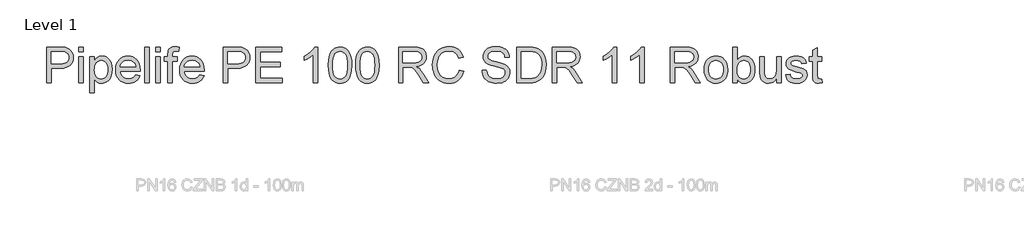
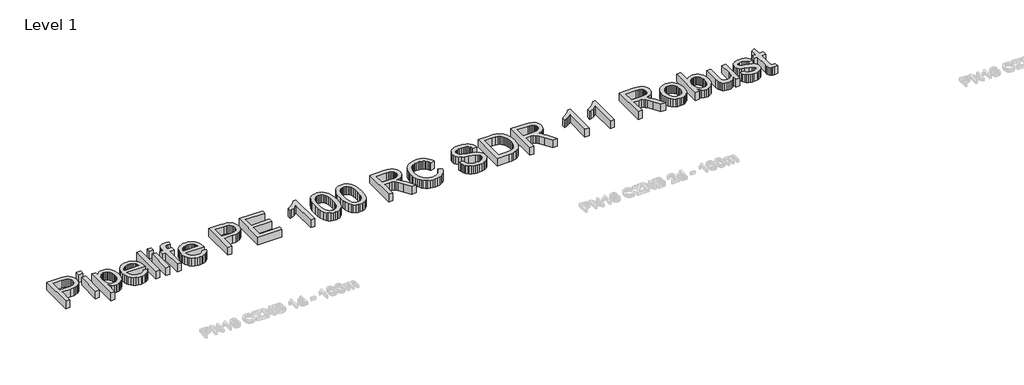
# One storey, part 11 of 13: 1 proxy.
"""IFC4 building model written with IfcOpenShell, lengths in millimetres."""

from ifc_helpers import new_model, si_unit, origin, origin_with_axes, place, context, project, spatial, polyline, outline, extrude, element, save

model = new_model("IFC4")

# Units and contexts
model_context = context("Model", 3, world=origin())
ifc_project = project(units=[si_unit("LENGTHUNIT", "METRE", prefix="MILLI")], contexts=[model_context])

# Site, building, storey
site = spatial("IfcSite", under=ifc_project)
building = spatial("IfcBuilding", under=site)
storey = spatial("IfcBuildingStorey", under=building, Name="Level 1", Elevation=0.0)

# Proxy
placement = place(None, origin())
element("IfcBuildingElementProxy", 1, Name="600mm Arial", ObjectType="600mm Arial", at=placement, inside=storey, context=model_context, shape_type="SweptSolid", body=[
    extrude(outline(polyline([(-16966.7426717, 3990.4626098), (-16966.7426717, 4593.2004707), (-16743.3647242, 4593.2004707), (-16691.3462101, 4591.7657309), (-16653.3072118, 4587.4615116), (-16613.152892, 4576.7377514), (-16580.0986947, 4559.2817508), (-16553.4824324, 4534.3025633), (-16532.6419174, 4501.0092427), (-16519.1774363, 4461.7378398), (-16514.689276, 4418.824405), (-16517.7197039, 4381.8246734), (-16526.8109877, 4347.7863917), (-16541.9631274, 4316.7095602), (-16563.176123, 4288.5941787), (-16592.2985814, 4265.2888543), (-16631.1791098, 4248.642194), (-16679.8177081, 4238.6541979), (-16738.2143763, 4235.3248658), (-16891.4004391, 4235.3248658), (-16891.4004391, 3990.4626098), (-16966.7426717, 3990.4626098)]), holes=[polyline([(-16891.4004391, 4310.6670984), (-16733.7997923, 4310.6670984), (-16697.5634158, 4312.3961438), (-16666.992422, 4317.5832799), (-16642.0868109, 4326.2285068), (-16622.8465826, 4338.3318245), (-16608.4899877, 4353.5713361), (-16598.2352771, 4371.625145), (-16592.0824507, 4392.4932512), (-16590.0315086, 4416.1756547), (-16594.8691569, 4450.0207982), (-16609.3821016, 4478.568441), (-16631.767721, 4500.0527496), (-16660.2233933, 4512.7078902), (-16689.2860709, 4516.5706511), (-16735.5656259, 4517.8582381), (-16891.4004391, 4517.8582381), (-16891.4004391, 4310.6670984)])]), origin_with_axes(), (0.0, 0.0, 1.0), 150.0),
    extrude(outline(polyline([(-16420.5114852, 3990.4626098), (-16420.5114852, 4433.0982264), (-16345.1692526, 4433.0982264), (-16345.1692526, 3990.4626098), (-16420.5114852, 3990.4626098)])), origin_with_axes(), (0.0, 0.0, 1.0), 150.0),
    extrude(outline(polyline([(-16420.5114852, 4517.8582381), (-16420.5114852, 4593.2004707), (-16345.1692526, 4593.2004707), (-16345.1692526, 4517.8582381), (-16420.5114852, 4517.8582381)])), origin_with_axes(), (0.0, 0.0, 1.0), 150.0),
    extrude(outline(polyline([(-16232.1559037, 3820.9425865), (-16232.1559037, 4433.0982264), (-16156.8136711, 4433.0982264), (-16156.8136711, 4359.2275218), (-16132.2391538, 4395.6662334), (-16104.7215806, 4421.6938846), (-16072.6422706, 4437.3104753), (-16034.3825431, 4442.5160055), (-16008.1065716, 4440.6949896), (-15983.4308868, 4435.231942), (-15960.3554886, 4426.1268626), (-15938.8803772, 4413.3797515), (-15919.4746019, 4397.3217024), (-15902.6072124, 4378.2838091), (-15888.2782087, 4356.2660717), (-15876.4875908, 4331.2684902), (-15860.7054532, 4275.7550971), (-15855.4447407, 4215.1649325), (-15861.3860349, 4150.730401), (-15868.8126526, 4121.0653166), (-15879.2099175, 4093.1016865), (-15892.4352753, 4067.570676), (-15908.3461716, 4045.2034507), (-15926.9426064, 4026.0000106), (-15948.2245798, 4009.9603556), (-15971.1482267, 3997.3098135), (-15994.6696817, 3988.273712), (-16018.788945, 3982.8520511), (-16043.5060166, 3981.0448308), (-16078.1421064, 3985.882479), (-16109.0625881, 4000.3954237), (-16135.5316977, 4022.3027965), (-16156.8136711, 4049.3237291), (-16156.8136711, 3820.9425865), (-16232.1559037, 3820.9425865)]), holes=[polyline([(-16156.8136711, 4208.248751), (-16154.7765246, 4171.9387981), (-16148.6650849, 4140.7056167), (-16138.4793522, 4114.5492068), (-16124.2193263, 4093.4695685), (-16107.0530327, 4077.2459725), (-16088.1484967, 4065.6576896), (-16067.5057182, 4058.7047199), (-16045.1246974, 4056.3870634), (-16022.4217797, 4058.7874934), (-16001.4019222, 4065.9887834), (-15982.0651249, 4077.9909335), (-15964.4113876, 4094.7939437), (-15949.7007063, 4116.6369371), (-15939.1930769, 4143.7590372), (-15932.8884992, 4176.1602439), (-15930.7869733, 4213.8405573), (-15932.8379154, 4249.8378105), (-15938.9907418, 4281.0158096), (-15949.2454524, 4307.3745546), (-15963.6020472, 4328.9140454), (-15980.8097276, 4345.6526762), (-15999.6176946, 4357.608841), (-16020.0259482, 4364.7825399), (-16042.0344886, 4367.1737729), (-16063.9740511, 4364.6307886), (-16084.6168295, 4357.0018357), (-16103.962824, 4344.2869143), (-16122.0120344, 4326.4860242), (-16137.2377504, 4303.8382889), (-16148.1132619, 4276.5828316), (-16154.6385688, 4244.7196523), (-16156.8136711, 4208.248751)])]), origin_with_axes(), (0.0, 0.0, 1.0), 150.0),
    extrude(outline(polyline([(-15460.7809362, 4122.3115169), (-15386.9102316, 4112.8937378), (-15398.2363985, 4083.3068284), (-15413.5264939, 4057.233192), (-15432.7805179, 4034.6728286), (-15455.9984703, 4015.6257383), (-15482.9412279, 4000.4965913), (-15513.3696674, 3989.6900576), (-15547.2837889, 3983.2061375), (-15584.6835922, 3981.0448308), (-15631.4321967, 3984.7742345), (-15673.0856356, 3995.9624457), (-15709.6439089, 4014.6094643), (-15741.1070165, 4040.7152904), (-15766.4081008, 4073.553357), (-15784.4803038, 4112.3970971), (-15795.3236256, 4157.2465109), (-15798.9380662, 4208.1015982), (-15795.2868374, 4260.6811323), (-15784.333151, 4307.0250667), (-15766.077007, 4347.1334012), (-15740.5184054, 4381.0061359), (-15709.1380712, 4407.9167039), (-15673.4167294, 4427.1385381), (-15633.3543802, 4438.6716387), (-15588.9510233, 4442.5160055), (-15545.9778078, 4438.6808357), (-15507.1156735, 4427.1753263), (-15472.3646205, 4407.9994773), (-15441.7246489, 4381.1532887), (-15416.7132717, 4347.3541304), (-15398.8480023, 4307.3193723), (-15388.1288407, 4261.0490143), (-15384.5557868, 4208.5430566), (-15384.9972452, 4188.2359704), (-15723.5958336, 4188.2359704), (-15719.2318334, 4158.1708144), (-15710.5544168, 4131.8396606), (-15697.5635839, 4109.242509), (-15680.2593345, 4090.3793597), (-15659.598162, 4075.5077301), (-15636.5365594, 4064.8851375), (-15611.0745268, 4058.5115819), (-15583.2120642, 4056.3870634), (-15543.1129267, 4060.3234007), (-15509.3413596, 4072.1324128), (-15481.8973627, 4092.5498635), (-15460.7809362, 4122.3115169)]), holes=[polyline([(-15723.5958336, 4263.5782031), (-15459.8980194, 4263.5782031), (-15470.0883507, 4303.3830349), (-15478.8531392, 4319.0364138), (-15490.064343, 4331.8571014), (-15510.6105525, 4347.3081452), (-15533.9894533, 4358.344605), (-15560.2010454, 4364.9664809), (-15589.2453289, 4367.1737729), (-15615.7374311, 4365.4125378), (-15640.0314384, 4360.1288327), (-15662.1273507, 4351.3226574), (-15682.0251681, 4338.9940121), (-15698.7224122, 4323.7131137), (-15711.2166044, 4306.0501794), (-15719.5077449, 4286.0052092), (-15723.5958336, 4263.5782031)])]), origin_with_axes(), (0.0, 0.0, 1.0), 150.0),
    extrude(outline(polyline([(-15309.2135542, 3990.4626098), (-15309.2135542, 4593.2004707), (-15233.8713216, 4593.2004707), (-15233.8713216, 3990.4626098), (-15309.2135542, 3990.4626098)])), origin_with_axes(), (0.0, 0.0, 1.0), 150.0),
    extrude(outline(polyline([(-15120.8579727, 4517.8582381), (-15120.8579727, 4593.2004707), (-15045.5157401, 4593.2004707), (-15045.5157401, 4517.8582381), (-15120.8579727, 4517.8582381)])), origin_with_axes(), (0.0, 0.0, 1.0), 150.0),
    extrude(outline(polyline([(-15120.8579727, 3990.4626098), (-15120.8579727, 4433.0982264), (-15045.5157401, 4433.0982264), (-15045.5157401, 3990.4626098), (-15120.8579727, 3990.4626098)])), origin_with_axes(), (0.0, 0.0, 1.0), 150.0),
    extrude(outline(polyline([(-14913.666833, 3990.4626098), (-14913.666833, 4357.7559938), (-14979.5912865, 4357.7559938), (-14979.5912865, 4433.0982264), (-14913.666833, 4433.0982264), (-14913.666833, 4477.6855242), (-14911.6802702, 4514.5840884), (-14905.7205819, 4540.519769), (-14890.5638437, 4565.5725329), (-14867.1665488, 4585.4013724), (-14834.4250512, 4598.3140305), (-14791.235705, 4602.6182498), (-14758.5309956, 4600.5581106), (-14722.5153483, 4594.3776931), (-14733.5518082, 4523.74435), (-14776.9618836, 4527.2760172), (-14805.6014969, 4524.1490202), (-14824.418661, 4514.7680294), (-14834.8481155, 4496.8521762), (-14838.3246004, 4468.1205924), (-14838.3246004, 4433.0982264), (-14753.5645887, 4433.0982264), (-14753.5645887, 4357.7559938), (-14838.3246004, 4357.7559938), (-14838.3246004, 3990.4626098), (-14913.666833, 3990.4626098)])), origin_with_axes(), (0.0, 0.0, 1.0), 150.0),
    extrude(outline(polyline([(-14377.7363424, 4122.3115169), (-14303.8656378, 4112.8937378), (-14315.1918047, 4083.3068284), (-14330.4819001, 4057.233192), (-14349.7359241, 4034.6728286), (-14372.9538765, 4015.6257383), (-14399.8966341, 4000.4965913), (-14430.3250736, 3989.6900576), (-14464.2391951, 3983.2061375), (-14501.6389984, 3981.0448308), (-14548.3876029, 3984.7742345), (-14590.0410418, 3995.9624457), (-14626.5993151, 4014.6094643), (-14658.0624227, 4040.7152904), (-14683.363507, 4073.553357), (-14701.43571, 4112.3970971), (-14712.2790318, 4157.2465109), (-14715.8934724, 4208.1015982), (-14712.2422436, 4260.6811323), (-14701.2885572, 4307.0250667), (-14683.0324132, 4347.1334012), (-14657.4738116, 4381.0061359), (-14626.0934774, 4407.9167039), (-14590.3721356, 4427.1385381), (-14550.3097864, 4438.6716387), (-14505.9064295, 4442.5160055), (-14462.933214, 4438.6808357), (-14424.0710797, 4427.1753263), (-14389.3200267, 4407.9994773), (-14358.6800551, 4381.1532887), (-14333.6686779, 4347.3541304), (-14315.8034085, 4307.3193723), (-14305.0842469, 4261.0490143), (-14301.511193, 4208.5430566), (-14301.9526514, 4188.2359704), (-14640.5512398, 4188.2359704), (-14636.1872396, 4158.1708144), (-14627.509823, 4131.8396606), (-14614.5189901, 4109.242509), (-14597.2147407, 4090.3793597), (-14576.5535682, 4075.5077301), (-14553.4919656, 4064.8851375), (-14528.029933, 4058.5115819), (-14500.1674704, 4056.3870634), (-14460.0683329, 4060.3234007), (-14426.2967658, 4072.1324128), (-14398.8527689, 4092.5498635), (-14377.7363424, 4122.3115169)]), holes=[polyline([(-14640.5512398, 4263.5782031), (-14376.8534256, 4263.5782031), (-14387.0437569, 4303.3830349), (-14395.8085454, 4319.0364138), (-14407.0197492, 4331.8571014), (-14427.5659587, 4347.3081452), (-14450.9448595, 4358.344605), (-14477.1564516, 4364.9664809), (-14506.2007351, 4367.1737729), (-14532.6928373, 4365.4125378), (-14556.9868446, 4360.1288327), (-14579.0827569, 4351.3226574), (-14598.9805743, 4338.9940121), (-14615.6778184, 4323.7131137), (-14628.1720106, 4306.0501794), (-14636.4631511, 4286.0052092), (-14640.5512398, 4263.5782031)])]), origin_with_axes(), (0.0, 0.0, 1.0), 150.0),
    extrude(outline(polyline([(-13981.3067044, 3990.4626098), (-13981.3067044, 4593.2004707), (-13757.928757, 4593.2004707), (-13705.9102428, 4591.7657309), (-13667.8712445, 4587.4615116), (-13627.7169248, 4576.7377514), (-13594.6627275, 4559.2817508), (-13568.0464651, 4534.3025633), (-13547.2059501, 4501.0092427), (-13533.7414691, 4461.7378398), (-13529.2533087, 4418.824405), (-13532.2837367, 4381.8246734), (-13541.3750205, 4347.7863917), (-13556.5271602, 4316.7095602), (-13577.7401557, 4288.5941787), (-13606.8626142, 4265.2888543), (-13645.7431425, 4248.642194), (-13694.3817408, 4238.6541979), (-13752.778409, 4235.3248658), (-13905.9644718, 4235.3248658), (-13905.9644718, 3990.4626098), (-13981.3067044, 3990.4626098)]), holes=[polyline([(-13905.9644718, 4310.6670984), (-13748.3638251, 4310.6670984), (-13712.1274486, 4312.3961438), (-13681.5564548, 4317.5832799), (-13656.6508437, 4326.2285068), (-13637.4106153, 4338.3318245), (-13623.0540205, 4353.5713361), (-13612.7993099, 4371.625145), (-13606.6464835, 4392.4932512), (-13604.5955414, 4416.1756547), (-13609.4331896, 4450.0207982), (-13623.9461343, 4478.568441), (-13646.3317537, 4500.0527496), (-13674.787426, 4512.7078902), (-13703.8501037, 4516.5706511), (-13750.1296587, 4517.8582381), (-13905.9644718, 4517.8582381), (-13905.9644718, 4310.6670984)])]), origin_with_axes(), (0.0, 0.0, 1.0), 150.0),
    extrude(outline(polyline([(-13425.6577389, 3990.4626098), (-13425.6577389, 4593.2004707), (-12992.4399014, 4593.2004707), (-12992.4399014, 4517.8582381), (-13350.3155063, 4517.8582381), (-13350.3155063, 4338.9204357), (-13011.2754595, 4338.9204357), (-13011.2754595, 4263.5782031), (-13350.3155063, 4263.5782031), (-13350.3155063, 4065.8048424), (-12983.0221223, 4065.8048424), (-12983.0221223, 3990.4626098), (-13425.6577389, 3990.4626098)])), origin_with_axes(), (0.0, 0.0, 1.0), 150.0),
    extrude(outline(polyline([(-12380.2842614, 3990.4626098), (-12455.626494, 3990.4626098), (-12455.626494, 4460.1743413), (-12487.0804046, 4434.7353013), (-12526.9956011, 4409.3330495), (-12568.8973603, 4387.1313711), (-12606.3109592, 4371.2940512), (-12606.3109592, 4442.5160055), (-12547.1371403, 4474.7056801), (-12495.8727843, 4513.0021958), (-12455.4609471, 4553.7267326), (-12428.8446848, 4593.2004707), (-12380.2842614, 4593.2004707), (-12380.2842614, 3990.4626098)])), origin_with_axes(), (0.0, 0.0, 1.0), 150.0),
    extrude(outline(polyline([(-12201.346459, 4286.9754979), (-12195.8098349, 4383.4525512), (-12188.8890549, 4424.3656276), (-12179.1999628, 4460.3950705), (-12166.7839455, 4491.8351855), (-12151.6823896, 4518.9802782), (-12133.8952951, 4541.8303486), (-12113.4226621, 4560.3853968), (-12090.1955126, 4574.7419916), (-12064.1448689, 4584.9967022), (-12035.2707308, 4591.1495286), (-12003.5730984, 4593.2004707), (-11957.1463906, 4588.3444284), (-11915.5757251, 4573.7763014), (-11880.8108766, 4550.0663068), (-11854.8016195, 4517.7846617), (-11835.156721, 4477.2072777), (-11819.484948, 4428.6100661), (-11809.2210403, 4366.8978614), (-11805.7997377, 4286.9754979), (-11811.2811795, 4191.0502677), (-11818.1329816, 4150.2751471), (-11827.7255047, 4114.2916894), (-11840.044953, 4082.8377788), (-11855.077531, 4055.6512994), (-11872.8232387, 4032.7322511), (-11893.2820762, 4014.0806339), (-11916.5368168, 3999.62747), (-11942.670234, 3989.3037815), (-11971.6823279, 3983.1095685), (-12003.5730984, 3981.0448308), (-12045.0701874, 3984.6316802), (-12081.8583869, 3995.3922286), (-12113.9376969, 4013.3264758), (-12141.3081173, 4038.434422), (-12167.5748918, 4083.8218632), (-12186.3368736, 4140.3745229), (-12197.5940626, 4208.0924011), (-12201.346459, 4286.9754979)]), holes=[polyline([(-12126.0042263, 4287.1226507), (-12123.7969344, 4221.62586), (-12117.1750585, 4168.609466), (-12106.1385986, 4128.0734687), (-12090.6875548, 4100.017868), (-12071.9991495, 4080.929391), (-12051.2506049, 4067.2947645), (-12028.4419212, 4059.1139887), (-12003.5730984, 4056.3870634), (-11978.7042755, 4059.1231857), (-11955.8955918, 4067.3315527), (-11935.1470472, 4081.0121644), (-11916.4586419, 4100.1650208), (-11901.0075981, 4128.2666067), (-11889.9711382, 4168.793407), (-11883.3492623, 4221.7454217), (-11881.1419704, 4287.1226507), (-11883.2756859, 4350.8857976), (-11889.6768326, 4402.968691), (-11900.3454105, 4443.3713311), (-11915.2814195, 4472.0937179), (-11933.6571252, 4492.1156955), (-11954.644793, 4506.4171081), (-11978.244423, 4514.9979556), (-12004.4560151, 4517.8582381), (-12029.1960793, 4515.3382465), (-12051.6184869, 4507.7782714), (-12071.723238, 4495.1783131), (-12089.5103324, 4477.5383714), (-12105.476411, 4446.2684019), (-12116.8807529, 4404.1091252), (-12123.723358, 4351.0605415), (-12126.0042263, 4287.1226507)])]), origin_with_axes(), (0.0, 0.0, 1.0), 150.0),
    extrude(outline(polyline([(-11739.8752842, 4286.9754979), (-11734.3386602, 4383.4525512), (-11727.4178801, 4424.3656276), (-11717.7287881, 4460.3950705), (-11705.3127708, 4491.8351855), (-11690.2112149, 4518.9802782), (-11672.4241204, 4541.8303486), (-11651.9514874, 4560.3853968), (-11628.7243379, 4574.7419916), (-11602.6736941, 4584.9967022), (-11573.799556, 4591.1495286), (-11542.1019236, 4593.2004707), (-11495.6752158, 4588.3444284), (-11454.1045504, 4573.7763014), (-11419.3397018, 4550.0663068), (-11393.3304448, 4517.7846617), (-11373.6855462, 4477.2072777), (-11358.0137732, 4428.6100661), (-11347.7498655, 4366.8978614), (-11344.328563, 4286.9754979), (-11349.8100047, 4191.0502677), (-11356.6618069, 4150.2751471), (-11366.2543299, 4114.2916894), (-11378.5737782, 4082.8377788), (-11393.6063562, 4055.6512994), (-11411.352064, 4032.7322511), (-11431.8109014, 4014.0806339), (-11455.0656421, 3999.62747), (-11481.1990593, 3989.3037815), (-11510.2111531, 3983.1095685), (-11542.1019236, 3981.0448308), (-11583.5990127, 3984.6316802), (-11620.3872122, 3995.3922286), (-11652.4665222, 4013.3264758), (-11679.8369426, 4038.434422), (-11706.1037171, 4083.8218632), (-11724.8656988, 4140.3745229), (-11736.1228879, 4208.0924011), (-11739.8752842, 4286.9754979)]), holes=[polyline([(-11664.5330516, 4287.1226507), (-11662.3257596, 4221.62586), (-11655.7038837, 4168.609466), (-11644.6674239, 4128.0734687), (-11629.2163801, 4100.017868), (-11610.5279747, 4080.929391), (-11589.7794302, 4067.2947645), (-11566.9707465, 4059.1139887), (-11542.1019236, 4056.3870634), (-11517.2331007, 4059.1231857), (-11494.424417, 4067.3315527), (-11473.6758725, 4081.0121644), (-11454.9874671, 4100.1650208), (-11439.5364233, 4128.2666067), (-11428.4999635, 4168.793407), (-11421.8780876, 4221.7454217), (-11419.6707956, 4287.1226507), (-11421.8045112, 4350.8857976), (-11428.2056579, 4402.968691), (-11438.8742358, 4443.3713311), (-11453.8102448, 4472.0937179), (-11472.1859504, 4492.1156955), (-11493.1736182, 4506.4171081), (-11516.7732482, 4514.9979556), (-11542.9848404, 4517.8582381), (-11567.7249046, 4515.3382465), (-11590.1473122, 4507.7782714), (-11610.2520632, 4495.1783131), (-11628.0391577, 4477.5383714), (-11644.0052363, 4446.2684019), (-11655.4095781, 4404.1091252), (-11662.2521832, 4351.0605415), (-11664.5330516, 4287.1226507)])]), origin_with_axes(), (0.0, 0.0, 1.0), 150.0),
    extrude(outline(polyline([(-11014.7062953, 3990.4626098), (-11014.7062953, 4593.2004707), (-10754.9816067, 4593.2004707), (-10685.1759981, 4589.1353747), (-10634.3898887, 4576.9400865), (-10614.7909754, 4567.246396), (-10597.2705954, 4554.4257084), (-10581.8287486, 4538.4780239), (-10568.4654352, 4519.4033425), (-10557.6818942, 4498.2271351), (-10549.9793649, 4475.974873), (-10545.3578473, 4452.6465559), (-10543.8173415, 4428.2421841), (-10546.3695228, 4397.2849142), (-10554.0260669, 4368.8660301), (-10566.7869736, 4342.9855317), (-10584.652243, 4319.6434191), (-10607.8518013, 4299.5846533), (-10636.6155748, 4283.5541954), (-10670.9435634, 4271.5520453), (-10710.8357673, 4263.5782031), (-10686.0037326, 4247.3546071), (-10668.0143031, 4231.3517403), (-10637.1490037, 4194.7474818), (-10606.9458919, 4153.8022157), (-10506.4405308, 3990.4626098), (-10593.9964456, 3990.4626098), (-10672.428887, 4115.3953354), (-10729.0827143, 4198.0952079), (-10750.1439585, 4222.2098727), (-10768.8875461, 4237.1642758), (-10804.7192525, 4251.5116736), (-10848.4236335, 4254.160424), (-10939.3640627, 4254.160424), (-10939.3640627, 3990.4626098), (-11014.7062953, 3990.4626098)]), holes=[polyline([(-10939.3640627, 4329.5026566), (-10770.7269561, 4329.5026566), (-10722.2952914, 4332.1698011), (-10684.7161456, 4340.1712344), (-10656.4260202, 4354.0403857), (-10635.8614167, 4374.3106836), (-10623.3350347, 4398.8300186), (-10619.1595741, 4425.4462809), (-10621.1507354, 4444.7141004), (-10627.1242193, 4462.1976922), (-10637.0800258, 4477.8970564), (-10651.0181549, 4491.8121929), (-10669.2605033, 4503.2073377), (-10692.1289678, 4511.3467268), (-10719.6235485, 4516.2303603), (-10751.7442452, 4517.8582381), (-10939.3640627, 4517.8582381), (-10939.3640627, 4329.5026566)])]), origin_with_axes(), (0.0, 0.0, 1.0), 150.0),
    extrude(outline(polyline([(-9988.168376, 4204.7170838), (-9912.8261434, 4185.2929145), (-9927.7345612, 4138.4385439), (-9947.5909919, 4097.4978763), (-9972.3954354, 4062.4709119), (-10002.1478918, 4033.3576505), (-10036.1769763, 4010.4707918), (-10073.8113045, 3994.1230357), (-10115.0508761, 3984.314382), (-10159.8956913, 3981.0448308), (-10205.839554, 3983.5188372), (-10247.2860593, 3990.9408564), (-10284.2352072, 4003.3108885), (-10316.6869977, 4020.6289334), (-10345.0874877, 4042.6374738), (-10369.8827342, 4069.0789922), (-10391.0727371, 4099.9534886), (-10408.6574965, 4135.2609631), (-10422.4668669, 4173.4747054), (-10432.3307029, 4213.0680051), (-10438.2490044, 4254.0408623), (-10440.2217716, 4296.393277), (-10437.9914871, 4341.8359005), (-10431.3006333, 4384.2802857), (-10420.1492103, 4423.7264326), (-10404.5372181, 4460.1743413), (-10384.8141446, 4493.0216049), (-10361.3294778, 4521.6658168), (-10334.0832175, 4546.1069768), (-10303.0753638, 4566.3450851), (-10269.358979, 4582.2145946), (-10233.9871252, 4593.5499586), (-10196.9598023, 4600.351177), (-10158.2770105, 4602.6182498), (-10115.1842333, 4599.6843909), (-10075.6691085, 4590.8828142), (-10039.7316361, 4576.2135196), (-10007.3718161, 4555.6765072), (-9979.1230774, 4529.814403), (-9955.5188489, 4499.1698328), (-9936.5591306, 4463.7427966), (-9922.2439224, 4423.5332946), (-9997.5861551, 4405.5806532), (-10009.4503494, 4435.2089494), (-10023.7057767, 4460.5238292), (-10040.352437, 4481.5252926), (-10059.3903302, 4498.2133396), (-10080.9298211, 4510.928261), (-10105.081274, 4520.0103478), (-10131.8446892, 4525.4595998), (-10161.2200665, 4527.2760172), (-10195.0192248, 4525.2618633), (-10225.9305095, 4519.2194015), (-10253.9539204, 4509.1486319), (-10279.0894578, 4495.0495544), (-10301.0198232, 4477.5567655), (-10319.4277185, 4457.3048617), (-10334.3131438, 4434.2938429), (-10345.6760989, 4408.5237092), (-10360.078679, 4353.3781981), (-10364.879539, 4296.5404298), (-10359.1957622, 4226.9371563), (-10352.0910412, 4195.6671867), (-10342.1444317, 4166.7516619), (-10329.1949855, 4140.7653975), (-10313.0817541, 4118.2832091), (-10293.8047376, 4099.3050966), (-10271.3639359, 4083.8310602), (-10246.8491994, 4071.8243116), (-10221.3503786, 4063.2480626), (-10194.8674735, 4058.1023132), (-10167.400484, 4056.3870634), (-10134.6451909, 4058.723114), (-10104.5110569, 4065.731266), (-10076.9980822, 4077.4115194), (-10052.1062667, 4093.7638741), (-10030.4242216, 4114.7147537), (-10012.5405582, 4140.1905819), (-9998.4552763, 4170.1913586), (-9988.168376, 4204.7170838)])), origin_with_axes(), (0.0, 0.0, 1.0), 150.0),
    extrude(outline(polyline([(-9602.0394338, 4197.6537495), (-9526.6972012, 4197.6537495), (-9518.0519743, 4155.8439608), (-9502.4169895, 4122.2379405), (-9478.0264133, 4095.5664959), (-9443.1144119, 4074.5604339), (-9400.4401005, 4060.930406), (-9352.7625939, 4056.3870634), (-9310.7872583, 4059.82676), (-9274.0358469, 4070.14585), (-9244.2557994, 4086.4798106), (-9223.1945552, 4107.9641191), (-9210.6681733, 4132.6306069), (-9206.4927126, 4158.5111052), (-9209.6197096, 4183.729416), (-9219.0007005, 4205.5264242), (-9238.0569878, 4224.1228591), (-9270.2098742, 4239.7394498), (-9379.9122851, 4268.5078218), (-9451.9251857, 4287.545715), (-9498.0024056, 4305.6639033), (-9535.507975, 4331.0109728), (-9562.0874492, 4361.7291194), (-9577.9247691, 4397.1561555), (-9583.2038757, 4436.6298936), (-9581.5713993, 4459.0660968), (-9576.6739703, 4480.7573389), (-9568.5115885, 4501.70362), (-9557.084254, 4521.9049401), (-9542.5207255, 4540.5381631), (-9524.9497617, 4556.7801532), (-9504.3713626, 4570.6309103), (-9480.7855282, 4582.0904345), (-9427.7737327, 4597.486296), (-9369.0965545, 4602.6182498), (-9305.5265457, 4597.2471727), (-9249.9027881, 4581.1339413), (-9225.5673941, 4569.1317912), (-9204.2118443, 4554.6096494), (-9185.8361386, 4537.567516), (-9170.4402771, 4518.0053909), (-9158.1438214, 4496.4934912), (-9149.0663332, 4473.6020341), (-9143.2078124, 4449.3310195), (-9140.5682591, 4423.6804474), (-9215.9104917, 4423.6804474), (-9220.950475, 4447.7215357), (-9229.7428547, 4468.6356272), (-9242.2876308, 4486.4227216), (-9258.5848031, 4501.0828191), (-9278.9378745, 4512.5423433), (-9303.6503475, 4520.7277177), (-9332.7222222, 4525.6389423), (-9366.1534985, 4527.2760172), (-9400.6516326, 4525.6573364), (-9430.1281775, 4520.8012941), (-9454.5831331, 4512.7078902), (-9474.0164995, 4501.3771247), (-9488.8237498, 4487.7562939), (-9499.4003572, 4472.7926937), (-9505.7463216, 4456.4863243), (-9507.8616431, 4438.8371856), (-9506.3625239, 4423.6528562), (-9501.8651666, 4409.8848725), (-9494.3695709, 4397.5332345), (-9483.875737, 4386.5979422), (-9467.3578354, 4376.2420641), (-9441.3485783, 4365.7758213), (-9360.8559978, 4344.512242), (-9277.7882433, 4324.3155205), (-9227.5355627, 4306.6939729), (-9184.5853398, 4279.3603406), (-9167.9800663, 4263.2930945), (-9154.6213513, 4245.6255617), (-9144.3528451, 4226.4497127), (-9137.0181978, 4205.857518), (-9131.15048, 4160.4240916), (-9132.8381387, 4136.8566513), (-9137.9011146, 4113.9789897), (-9146.3394079, 4091.7911069), (-9158.1530185, 4070.2930028), (-9173.1350127, 4050.3170104), (-9191.078457, 4032.6954629), (-9211.9833514, 4017.4283601), (-9235.8496958, 4004.515702), (-9261.9831131, 3994.2471959), (-9289.6892258, 3986.9125486), (-9349.8195379, 3981.0448308), (-9388.3597755, 3982.6267233), (-9423.6350603, 3987.3724011), (-9455.6453924, 3995.281864), (-9484.3907718, 4006.355112), (-9510.0459424, 4020.6105393), (-9532.7856482, 4038.06654), (-9552.6098893, 4058.723114), (-9569.5186655, 4082.5802614), (-9583.1394963, 4108.86543), (-9593.0999014, 4136.8060675), (-9599.3998805, 4166.402174), (-9602.0394338, 4197.6537495)])), origin_with_axes(), (0.0, 0.0, 1.0), 150.0),
    extrude(outline(polyline([(-9018.1371311, 3990.4626098), (-9018.1371311, 4593.2004707), (-8810.2102274, 4593.2004707), (-8748.0749584, 4591.029967), (-8702.641532, 4584.5184556), (-8654.5961435, 4567.7798249), (-8614.0555476, 4541.4026858), (-8591.7159134, 4519.8448009), (-8572.3745175, 4495.4910128), (-8556.0313599, 4468.3413216), (-8542.6864405, 4438.3957272), (-8532.3213653, 4405.9301411), (-8524.9177402, 4371.2204748), (-8518.99484, 4295.0689018), (-8523.0047538, 4230.376853), (-8535.034495, 4173.4471142), (-8553.3550184, 4124.9786614), (-8576.2372785, 4085.6704702), (-8602.5776293, 4054.6396239), (-8631.272425, 4031.0032057), (-8664.2162576, 4013.4736286), (-8703.3037196, 4000.7633057), (-8748.6083873, 3993.0377838), (-8800.2038371, 3990.4626098), (-9018.1371311, 3990.4626098)]), holes=[polyline([(-8942.7948985, 4065.8048424), (-8809.4744634, 4065.8048424), (-8754.3289524, 4068.5271692), (-8712.5007695, 4076.6941495), (-8680.9364943, 4089.8275367), (-8656.5827062, 4107.4490843), (-8630.4079023, 4140.0618232), (-8610.7446096, 4182.2762821), (-8598.4389569, 4234.2764021), (-8594.3370726, 4296.2461242), (-8596.346628, 4339.9872934), (-8602.3752942, 4378.3573855), (-8612.4230712, 4411.3564005), (-8626.489959, 4438.9843384), (-8643.4355234, 4461.8665985), (-8662.1193303, 4480.6285802), (-8682.5413795, 4495.2702836), (-8704.7016712, 4505.7917087), (-8748.0381702, 4514.8416058), (-8811.5346026, 4517.8582381), (-8942.7948985, 4517.8582381), (-8942.7948985, 4065.8048424)])]), origin_with_axes(), (0.0, 0.0, 1.0), 150.0),
    extrude(outline(polyline([(-8415.3992702, 3990.4626098), (-8415.3992702, 4593.2004707), (-8155.6745816, 4593.2004707), (-8085.868973, 4589.1353747), (-8035.0828636, 4576.9400865), (-8015.4839503, 4567.246396), (-7997.9635703, 4554.4257084), (-7982.5217235, 4538.4780239), (-7969.15841, 4519.4033425), (-7958.3748691, 4498.2271351), (-7950.6723398, 4475.974873), (-7946.0508222, 4452.6465559), (-7944.5103164, 4428.2421841), (-7947.0624977, 4397.2849142), (-7954.7190417, 4368.8660301), (-7967.4799484, 4342.9855317), (-7985.3452178, 4319.6434191), (-8008.5447762, 4299.5846533), (-8037.3085497, 4283.5541954), (-8071.6365383, 4271.5520453), (-8111.5287422, 4263.5782031), (-8086.6967075, 4247.3546071), (-8068.7072779, 4231.3517403), (-8037.8419785, 4194.7474818), (-8007.6388667, 4153.8022157), (-7907.1335057, 3990.4626098), (-7994.6894205, 3990.4626098), (-8073.1218619, 4115.3953354), (-8129.7756891, 4198.0952079), (-8150.8369334, 4222.2098727), (-8169.580521, 4237.1642758), (-8205.4122273, 4251.5116736), (-8249.1166084, 4254.160424), (-8340.0570376, 4254.160424), (-8340.0570376, 3990.4626098), (-8415.3992702, 3990.4626098)]), holes=[polyline([(-8340.0570376, 4329.5026566), (-8171.419931, 4329.5026566), (-8122.9882663, 4332.1698011), (-8085.4091205, 4340.1712344), (-8057.1189951, 4354.0403857), (-8036.5543916, 4374.3106836), (-8024.0280096, 4398.8300186), (-8019.852549, 4425.4462809), (-8021.8437103, 4444.7141004), (-8027.8171942, 4462.1976922), (-8037.7730007, 4477.8970564), (-8051.7111298, 4491.8121929), (-8069.9534782, 4503.2073377), (-8092.8219427, 4511.3467268), (-8120.3165233, 4516.2303603), (-8152.43722, 4517.8582381), (-8340.0570376, 4517.8582381), (-8340.0570376, 4329.5026566)])]), origin_with_axes(), (0.0, 0.0, 1.0), 150.0),
    extrude(outline(polyline([(-7322.9368973, 3990.4626098), (-7398.2791299, 3990.4626098), (-7398.2791299, 4460.1743413), (-7429.7330405, 4434.7353013), (-7469.648237, 4409.3330495), (-7511.5499962, 4387.1313711), (-7548.9635952, 4371.2940512), (-7548.9635952, 4442.5160055), (-7489.7897762, 4474.7056801), (-7438.5254202, 4513.0021958), (-7398.113583, 4553.7267326), (-7371.4973207, 4593.2004707), (-7322.9368973, 4593.2004707), (-7322.9368973, 3990.4626098)])), origin_with_axes(), (0.0, 0.0, 1.0), 150.0),
    extrude(outline(polyline([(-6861.4657226, 3990.4626098), (-6936.8079552, 3990.4626098), (-6936.8079552, 4460.1743413), (-6968.2618658, 4434.7353013), (-7008.1770622, 4409.3330495), (-7050.0788215, 4387.1313711), (-7087.4924204, 4371.2940512), (-7087.4924204, 4442.5160055), (-7028.3186015, 4474.7056801), (-6977.0542455, 4513.0021958), (-6936.6424083, 4553.7267326), (-6910.0261459, 4593.2004707), (-6861.4657226, 4593.2004707), (-6861.4657226, 3990.4626098)])), origin_with_axes(), (0.0, 0.0, 1.0), 150.0),
    extrude(outline(polyline([(-6418.830106, 3990.4626098), (-6418.830106, 4593.2004707), (-6159.1054174, 4593.2004707), (-6089.2998088, 4589.1353747), (-6038.5136994, 4576.9400865), (-6018.9147861, 4567.246396), (-6001.394406, 4554.4257084), (-5985.9525593, 4538.4780239), (-5972.5892458, 4519.4033425), (-5961.8057048, 4498.2271351), (-5954.1031756, 4475.974873), (-5949.481658, 4452.6465559), (-5947.9411521, 4428.2421841), (-5950.4933335, 4397.2849142), (-5958.1498775, 4368.8660301), (-5970.9107842, 4342.9855317), (-5988.7760536, 4319.6434191), (-6011.9756119, 4299.5846533), (-6040.7393854, 4283.5541954), (-6075.0673741, 4271.5520453), (-6114.959578, 4263.5782031), (-6090.1275433, 4247.3546071), (-6072.1381137, 4231.3517403), (-6041.2728143, 4194.7474818), (-6011.0697025, 4153.8022157), (-5910.5643414, 3990.4626098), (-5998.1202563, 3990.4626098), (-6076.5526977, 4115.3953354), (-6133.2065249, 4198.0952079), (-6154.2677691, 4222.2098727), (-6173.0113568, 4237.1642758), (-6208.8430631, 4251.5116736), (-6252.5474442, 4254.160424), (-6343.4878734, 4254.160424), (-6343.4878734, 3990.4626098), (-6418.830106, 3990.4626098)]), holes=[polyline([(-6343.4878734, 4329.5026566), (-6174.8507668, 4329.5026566), (-6126.4191021, 4332.1698011), (-6088.8399563, 4340.1712344), (-6060.5498309, 4354.0403857), (-6039.9852273, 4374.3106836), (-6027.4588454, 4398.8300186), (-6023.2833848, 4425.4462809), (-6025.2745461, 4444.7141004), (-6031.24803, 4462.1976922), (-6041.2038364, 4477.8970564), (-6055.1419655, 4491.8121929), (-6073.384314, 4503.2073377), (-6096.2527785, 4511.3467268), (-6123.7473591, 4516.2303603), (-6155.8680558, 4517.8582381), (-6343.4878734, 4517.8582381), (-6343.4878734, 4329.5026566)])]), origin_with_axes(), (0.0, 0.0, 1.0), 150.0),
    extrude(outline(polyline([(-5844.3455823, 4211.7804181), (-5840.2712892, 4269.10563), (-5828.0484099, 4318.5029849), (-5807.6769444, 4359.9724828), (-5779.1568928, 4393.5141237), (-5750.443703, 4414.952447), (-5718.7506691, 4430.2655351), (-5684.0777911, 4439.4533879), (-5646.4250689, 4442.5160055), (-5604.859002, 4438.7866018), (-5567.2752576, 4427.5983906), (-5533.6738359, 4408.951372), (-5504.0547368, 4382.8455459), (-5479.8802912, 4350.1638291), (-5462.61283, 4311.7891385), (-5452.2523533, 4267.721474), (-5448.7988611, 4217.9608356), (-5450.3255714, 4177.6317719), (-5454.9057022, 4141.8460508), (-5462.5392536, 4110.6036724), (-5473.2262256, 4083.9046366), (-5486.8332609, 4060.843034), (-5503.2270023, 4040.5129553), (-5522.4074498, 4022.9144003), (-5544.3746034, 4008.0473692), (-5568.2731375, 3996.2337586), (-5593.2477265, 3987.7954654), (-5619.2983703, 3982.7324894), (-5646.4250689, 3981.0448308), (-5688.5981411, 3984.7604389), (-5726.5313733, 3995.9072634), (-5760.2247656, 4014.4853041), (-5789.6783178, 4040.4945612), (-5813.595246, 4073.4935761), (-5830.6787662, 4113.0408906), (-5840.9288783, 4159.1365046), (-5844.3455823, 4211.7804181)]), holes=[polyline([(-5769.0033497, 4211.9275709), (-5766.8236489, 4175.3830932), (-5760.2845464, 4143.7406431), (-5749.3860423, 4117.0002206), (-5734.1281365, 4095.1618257), (-5715.5684899, 4078.1978672), (-5694.7647631, 4066.0807539), (-5671.7169561, 4058.810486), (-5646.4250689, 4056.3870634), (-5621.2619404, 4058.8242816), (-5598.3061039, 4066.1359362), (-5577.5575594, 4078.3220273), (-5559.0163068, 4095.3825549), (-5543.7584011, 4117.4370805), (-5532.859897, 4144.6051658), (-5526.3207945, 4176.8868109), (-5524.1410937, 4214.2820157), (-5526.3345901, 4249.6676651), (-5532.9150793, 4280.4823807), (-5543.8825613, 4306.7261626), (-5559.237036, 4328.3990106), (-5577.8472665, 4345.3629691), (-5598.5820154, 4357.4800823), (-5621.4412829, 4364.7503502), (-5646.4250689, 4367.1737729), (-5671.7169561, 4364.7595473), (-5694.7647631, 4357.5168705), (-5715.5684899, 4345.4457426), (-5734.1281365, 4328.5461634), (-5749.3860423, 4306.7721478), (-5760.2845464, 4280.0777105), (-5766.8236489, 4248.4628516), (-5769.0033497, 4211.9275709)])]), origin_with_axes(), (0.0, 0.0, 1.0), 150.0),
    extrude(outline(polyline([(-5288.6966168, 3990.4626098), (-5364.0388494, 3990.4626098), (-5364.0388494, 4593.2004707), (-5288.6966168, 4593.2004707), (-5288.6966168, 4369.6753705), (-5263.9197644, 4401.5431483), (-5235.9423387, 4424.3058467), (-5204.7643396, 4437.9634658), (-5170.3857671, 4442.5160055), (-5131.5742166, 4438.4141213), (-5094.8963817, 4426.1084685), (-5062.4491898, 4406.3715995), (-5036.3295681, 4379.9760663), (-5015.8569351, 4347.1793865), (-5000.350709, 4308.2390773), (-4990.583442, 4264.7738195), (-4987.3276863, 4218.402294), (-4990.6984051, 4164.8938578), (-5000.8105615, 4117.8233566), (-5017.6641554, 4077.1907902), (-5041.2591868, 4042.9961587), (-5069.5815019, 4015.8924527), (-5100.6169468, 3996.5326628), (-5134.3655213, 3984.9167888), (-5170.8272255, 3981.0448308), (-5206.3370351, 3986.0388288), (-5237.8185369, 4001.0208231), (-5265.2717307, 4025.9908135), (-5288.6966168, 4060.9488001), (-5288.6966168, 3990.4626098)]), holes=[polyline([(-5288.6966168, 4214.8706269), (-5283.5462689, 4152.0363821), (-5277.1083339, 4128.234417), (-5268.0952251, 4109.5092235), (-5249.839081, 4086.2682784), (-5228.621487, 4069.6676034), (-5204.4424428, 4059.7071984), (-5177.3019486, 4056.3870634), (-5154.7691764, 4058.8334786), (-5133.8182968, 4066.1727244), (-5114.4493098, 4078.4048008), (-5096.6622153, 4095.5297077), (-5081.7905857, 4117.5014598), (-5071.167993, 4144.274072), (-5064.7944375, 4175.8475443), (-5062.669919, 4212.2218765), (-5064.7070655, 4249.2859875), (-5070.8185051, 4281.1629624), (-5081.0042379, 4307.8528012), (-5095.2642637, 4329.3555038), (-5112.4121632, 4345.9009965), (-5131.261517, 4357.7192056), (-5151.8123249, 4364.8101311), (-5174.0645871, 4367.1737729), (-5196.5973593, 4364.7273576), (-5217.5482389, 4357.3881118), (-5236.917226, 4345.1560355), (-5254.7043204, 4328.0311286), (-5269.5759501, 4306.2801056), (-5280.1985427, 4280.169681), (-5286.5720983, 4249.6998548), (-5288.6966168, 4214.8706269)])]), origin_with_axes(), (0.0, 0.0, 1.0), 150.0),
    extrude(outline(polyline([(-4620.0343024, 3990.4626098), (-4620.0343024, 4066.5406064), (-4647.2943582, 4029.1362046), (-4679.0425744, 4002.4187747), (-4715.2789509, 3986.3883167), (-4756.0034878, 3981.0448308), (-4792.6997168, 3984.7972271), (-4826.85756, 3996.0544162), (-4855.5155675, 4012.9769879), (-4875.712289, 4033.7255325), (-4889.3055287, 4058.9254491), (-4898.1530907, 4089.2021373), (-4902.5676747, 4159.2468692), (-4902.5676747, 4433.0982264), (-4827.225442, 4433.0982264), (-4827.225442, 4194.7106936), (-4826.0850079, 4147.033187), (-4822.6637053, 4117.896933), (-4811.6824277, 4092.273952), (-4792.8652637, 4072.7946004), (-4767.4630119, 4060.4889476), (-4736.7264712, 4056.3870634), (-4704.224097, 4060.5809181), (-4673.81865, 4073.1624823), (-4648.7474921, 4092.9729278), (-4632.2479846, 4118.8534261), (-4623.0877229, 4154.2988564), (-4620.0343024, 4202.8040974), (-4620.0343024, 4433.0982264), (-4544.6920697, 4433.0982264), (-4544.6920697, 3990.4626098), (-4620.0343024, 3990.4626098)])), origin_with_axes(), (0.0, 0.0, 1.0), 150.0),
    extrude(outline(polyline([(-4469.3498371, 4122.3115169), (-4394.0076045, 4131.729296), (-4389.4550648, 4114.5492068), (-4382.1250161, 4099.5028332), (-4372.0174583, 4086.5901752), (-4359.1323914, 4075.8112327), (-4343.4330272, 4067.3131586), (-4324.8825776, 4061.2431057), (-4279.228422, 4056.3870634), (-4234.1260894, 4060.8384355), (-4216.5965123, 4066.4026507), (-4202.4146614, 4074.1925519), (-4183.6526797, 4093.5431449), (-4178.9621842, 4104.3772696), (-4177.3986858, 4115.9839466), (-4178.9713813, 4126.1558838), (-4183.6894679, 4135.1873867), (-4202.5618142, 4149.8290901), (-4230.7783633, 4159.394022), (-4280.1113388, 4171.3133987), (-4348.8684837, 4191.1974205), (-4393.5661461, 4208.1751746), (-4422.2793358, 4226.698033), (-4443.0830627, 4251.217368), (-4455.7198092, 4280.169681), (-4459.9320581, 4311.9914736), (-4456.5475437, 4341.1829099), (-4446.3940006, 4368.1302661), (-4430.3911338, 4391.7666843), (-4409.4586483, 4411.0253067), (-4388.6549215, 4423.1470185), (-4361.5604125, 4433.3189556), (-4330.2352607, 4440.216743), (-4296.739605, 4442.5160055), (-4247.700935, 4438.8187915), (-4205.0634118, 4427.7271493), (-4170.7768098, 4410.3263309), (-4146.7909038, 4387.7015882), (-4130.8984016, 4358.1790581), (-4120.8920113, 4320.0848775), (-4196.2342439, 4310.6670984), (-4205.7439935, 4334.377093), (-4224.5611575, 4352.2377639), (-4252.8696771, 4363.4397706), (-4290.8534931, 4367.1737729), (-4334.1164157, 4363.6053175), (-4362.9583641, 4352.8999515), (-4379.1819601, 4337.4489077), (-4384.5898254, 4319.6434191), (-4382.3457453, 4308.0551363), (-4375.6135048, 4297.7176522), (-4364.0987983, 4288.4838141), (-4347.5073203, 4281.089386), (-4282.6129364, 4265.049731), (-4172.0276086, 4229.5859067), (-4142.8177782, 4212.6265467), (-4120.6712821, 4189.4131928), (-4106.7101604, 4159.8722686), (-4102.0564531, 4123.9301977), (-4107.5195008, 4086.7741162), (-4123.9086437, 4051.8253266), (-4150.5984824, 4021.8245499), (-4186.9636176, 3999.5125069), (-4230.8887279, 3985.6617498), (-4280.2584916, 3981.0448308), (-4320.8082845, 3983.2705168), (-4356.2261236, 3989.947575), (-4386.5120089, 4001.0760054), (-4411.6659403, 4016.6558079), (-4432.2121497, 4036.6134061), (-4448.674869, 4060.8752237), (-4461.0540981, 4089.4412606), (-4469.3498371, 4122.3115169)])), origin_with_axes(), (0.0, 0.0, 1.0), 150.0),
    extrude(outline(polyline([(-3857.1941972, 4053.2968546), (-3847.7764181, 3988.2553179), (-3904.1359397, 3981.0448308), (-3940.2987399, 3984.1718277), (-3967.2644901, 3993.5528186), (-3986.3207775, 4008.010581), (-3998.7551889, 4026.3678926), (-4005.597794, 4057.8953795), (-4007.8786624, 4111.8636682), (-4007.8786624, 4357.7559938), (-4064.3853368, 4357.7559938), (-4064.3853368, 4433.0982264), (-4007.8786624, 4433.0982264), (-4007.8786624, 4540.6669218), (-3932.5364298, 4584.959914), (-3932.5364298, 4433.0982264), (-3857.1941972, 4433.0982264), (-3857.1941972, 4357.7559938), (-3932.5364298, 4357.7559938), (-3932.5364298, 4114.0709602), (-3928.5633042, 4075.2226215), (-3915.6874344, 4061.4638349), (-3904.8165214, 4057.6562563), (-3890.0092711, 4056.3870634), (-3857.1941972, 4053.2968546)])), origin_with_axes(), (0.0, 0.0, 1.0), 150.0),
])

save(model, "model.ifc")
